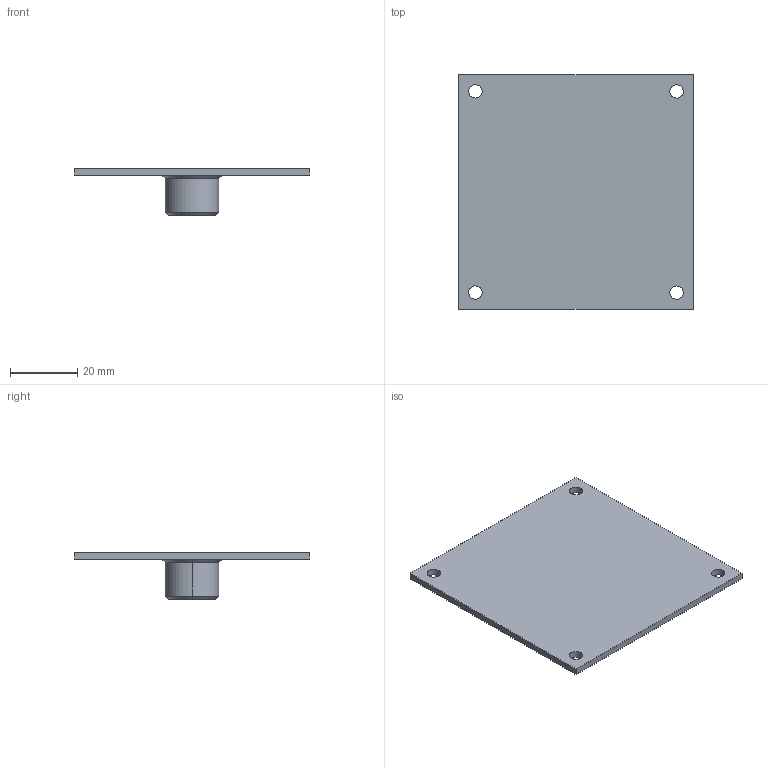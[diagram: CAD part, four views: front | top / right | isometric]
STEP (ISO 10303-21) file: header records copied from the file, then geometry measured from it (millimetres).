
FILE_DESCRIPTION(/* description */ (''),/* implementation_level */ '2;1');
FILE_NAME(/* name */ 'DZM02',/* time_stamp */ '2012-11-29T22:41:41+01:00',/* author */ (''),/* organization */ (''),/* preprocessor_version */ 'ST-DEVELOPER v10',/* originating_system */ '',/* authorisation */ '');
FILE_SCHEMA (('AUTOMOTIVE_DESIGN_CC2'));
Length unit declared in the file: millimetre
Products named in the file (1): 1
Bounding box: 70 x 70 x 14 mm (x, y, z)
Volume: 9699.4 mm3; surface area: 11547.5 mm2
Topology: 1 solids, 7 shells, 26 faces, 70 edges, 49 vertices
Faces by surface type: bspline 18, plane 8
Entity records: 1750 total; most frequent: CARTESIAN_POINT 1229, ORIENTED_EDGE 117, EDGE_CURVE 69, B_SPLINE_CURVE_WITH_KNOTS 51, VERTEX_POINT 47, EDGE_LOOP 36, ADVANCED_FACE 26, FACE_OUTER_BOUND 26
